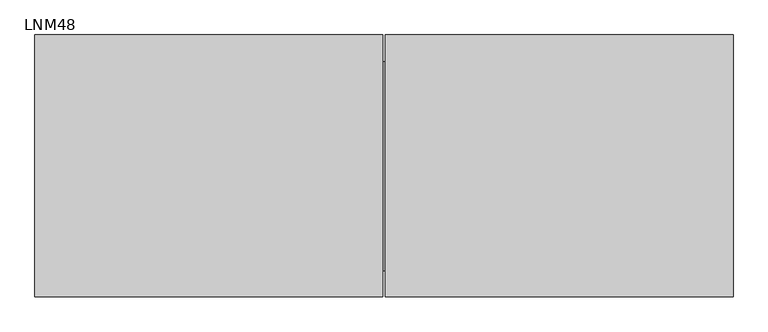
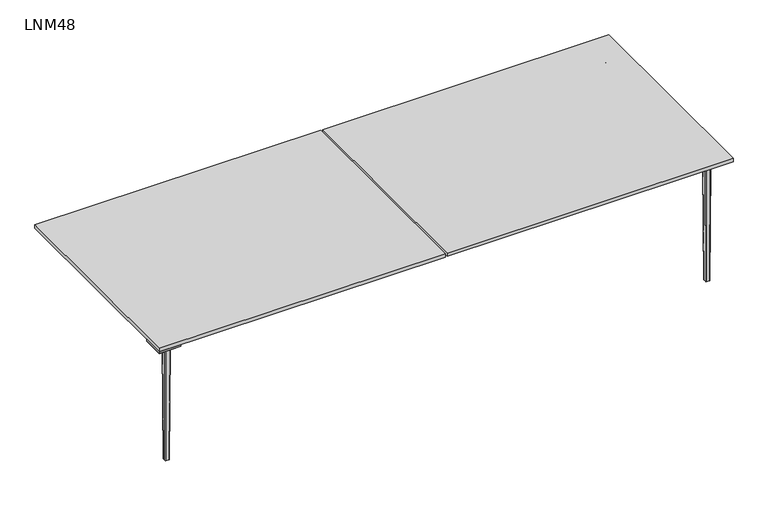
"""IFC4 building model written with IfcOpenShell, lengths in millimetres: furniture geometry, Operative Twin Desks : LNM48."""

from ifc_helpers import new_model, si_unit, point, frame, origin, place, context, project, spatial, polyline, circle_curve, ellipse_curve, trimmed, outline, extrude, faceted_brep, source, transform, mapped, element, save
from ifc_brep_helpers import plane_surface, cylinder_surface, revolved_surface, extruded_surface, advanced_brep


def lnm48_bbb13878(model_context):
    return source(origin(), model_context, "Body", "SolidModel", [
        advanced_brep(
        [(1519.0, -522.0, 665.0), (1522.0, -519.0, 665.0), (1522.0, -495.0, 665.0), (1519.0, -492.0, 665.0), (1495.0, -492.0, 665.0), (1492.0, -495.0, 665.0), (1492.0, -519.0, 665.0), (1495.0, -522.0, 665.0), (1516.0, -519.0, 0.0), (1498.0, -519.0, 0.0), (1495.0, -516.0, 0.0), (1495.0, -498.0, 0.0), (1498.0, -495.0, 0.0), (1516.0, -495.0, 0.0), (1519.0, -498.0, 0.0), (1519.0, -516.0, 0.0)],
        [
            (0, 1, circle_curve(frame((1519.0, -519.0, 665.0), z_axis=(0.0, 0.0, 1.0), x_axis=(0.0, 1.0, 0.0)), 3.0)),
            (1, 2),
            (2, 3, circle_curve(frame((1519.0, -495.0, 665.0), z_axis=(0.0, 0.0, 1.0), x_axis=(0.0, 1.0, 0.0)), 3.0)),
            (3, 4),
            (4, 5, circle_curve(frame((1495.0, -495.0, 665.0), z_axis=(0.0, 0.0, 1.0), x_axis=(0.0, 1.0, 0.0)), 3.0)),
            (5, 6),
            (6, 7, circle_curve(frame((1495.0, -519.0, 665.0), z_axis=(0.0, 0.0, 1.0), x_axis=(0.0, 1.0, 0.0)), 3.0)),
            (7, 0),
            (8, 9),
            (9, 10, circle_curve(frame((1498.0, -516.0, 0.0), z_axis=(0.0, 0.0, -1.0), x_axis=(0.0, 1.0, 0.0)), 3.0)),
            (10, 11),
            (11, 12, circle_curve(frame((1498.0, -498.0, 0.0), z_axis=(0.0, 0.0, -1.0), x_axis=(0.0, 1.0, 0.0)), 3.0)),
            (12, 13),
            (13, 14, circle_curve(frame((1516.0, -498.0, 0.0), z_axis=(0.0, 0.0, -1.0), x_axis=(0.0, 1.0, 0.0)), 3.0)),
            (14, 15),
            (15, 8, circle_curve(frame((1516.0, -516.0, 0.0), z_axis=(0.0, 0.0, -1.0), x_axis=(0.0, 1.0, 0.0)), 3.0)),
            (15, 1),
            (0, 8),
            (14, 2),
            (13, 3),
            (12, 4),
            (11, 5),
            (10, 6),
            (9, 7),
        ],
        [
            plane_surface(frame((1507.0, -507.0, 665.0), z_axis=(0.0, 0.0, 1.0), x_axis=(0.0, -1.0, 0.0))),
            plane_surface(frame((1507.0, -507.0, 0.0), z_axis=(0.0, 0.0, -1.0), x_axis=(0.0, -1.0, 0.0))),
            extruded_surface(trimmed(circle_curve(frame((1516.0, -516.0, 0.0), z_axis=(0.0, 0.0, 1.0), x_axis=(0.0, 1.0, 0.0)), 3.0), [point((1516.0, -519.0, 0.0))], [point((1519.0, -516.0, 0.0))], True, "CARTESIAN"), (3.0, -3.0, 665.0), 665.0135336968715),
            plane_surface(frame((1519.0, -507.0, 0.0), z_axis=(0.9999898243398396, 0.0, -0.004511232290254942), x_axis=(0.0, 1.0, 0.0))),
            extruded_surface(trimmed(circle_curve(frame((1516.0, -498.0, 0.0), z_axis=(0.0, 0.0, 1.0), x_axis=(0.0, 1.0, 0.0)), 3.0), [point((1519.0, -498.0, 0.0))], [point((1516.0, -495.0, 0.0))], True, "CARTESIAN"), (3.0, 3.0, 665.0), 665.0135336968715),
            plane_surface(frame((1507.0, -495.0, 0.0), z_axis=(0.0, 0.9999898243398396, -0.004511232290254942), x_axis=(-1.0, 0.0, 0.0))),
            extruded_surface(trimmed(circle_curve(frame((1498.0, -498.0, 0.0), z_axis=(0.0, 0.0, 1.0), x_axis=(0.0, 1.0, 0.0)), 3.0), [point((1498.0, -495.0, 0.0))], [point((1495.0, -498.0, 0.0))], True, "CARTESIAN"), (-3.0, 3.0, 665.0), 665.0135336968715),
            plane_surface(frame((1495.0, -507.0, 0.0), z_axis=(-0.9999898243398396, 0.0, -0.004511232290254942), x_axis=(0.0, -1.0, 0.0))),
            extruded_surface(trimmed(circle_curve(frame((1498.0, -516.0, 0.0), z_axis=(0.0, 0.0, 1.0), x_axis=(0.0, 1.0, 0.0)), 3.0), [point((1495.0, -516.0, 0.0))], [point((1498.0, -519.0, 0.0))], True, "CARTESIAN"), (-3.0, -3.0, 665.0), 665.0135336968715),
            plane_surface(frame((1507.0, -519.0, 0.0), z_axis=(0.0, -0.9999898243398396, -0.004511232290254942), x_axis=(1.0, 0.0, 0.0))),
        ],
        [
            (0, [[1, 2, 3, 4, 5, 6, 7, 8]]),
            (1, [[9, 10, 11, 12, 13, 14, 15, 16]]),
            (2, [[-16, 17, -1, 18]]),
            (3, [[-15, 19, -2, -17]]),
            (4, [[-14, 20, -3, -19]]),
            (5, [[-13, 21, -4, -20]]),
            (6, [[-12, 22, -5, -21]]),
            (7, [[-11, 23, -6, -22]]),
            (8, [[-10, 24, -7, -23]]),
            (9, [[-9, -18, -8, -24]]),
        ],
    ),
        faceted_brep([(1480.0, 480.0, 710.0), (1600.0, 480.0, 710.0), (1600.0, 600.0, 710.0), (1480.0, 600.0, 710.0), (1480.0, 480.0, 675.0), (1480.0, 527.0, 675.0), (1527.0, 527.0, 675.0), (1527.0, 480.0, 675.0)], [[[0, 1, 2, 3]], [[4, 5, 6, 7]], [[1, 0, 4, 7]], [[0, 3, 5, 4]], [[6, 2, 1, 7]], [[2, 6, 5, 3]]]),
        advanced_brep(
        [(1495.0, 487.0, 675.0), (1519.0, 487.0, 675.0), (1527.0, 495.0, 675.0), (1527.0, 519.0, 675.0), (1519.0, 527.0, 675.0), (1495.0, 527.0, 675.0), (1487.0, 519.0, 675.0), (1487.0, 495.0, 675.0), (1492.0, 519.0, 665.0), (1495.0, 522.0, 665.0), (1519.0, 522.0, 665.0), (1522.0, 519.0, 665.0), (1522.0, 495.0, 665.0), (1519.0, 492.0, 665.0), (1495.0, 492.0, 665.0), (1492.0, 495.0, 665.0), (1495.0, 487.0, 672.0), (1519.0, 487.0, 672.0), (1527.0, 495.0, 672.0), (1527.0, 519.0, 672.0), (1519.0, 527.0, 672.0), (1495.0, 527.0, 672.0), (1487.0, 519.0, 672.0), (1487.0, 495.0, 672.0)],
        [
            (0, 1),
            (1, 2, circle_curve(frame((1519.0, 495.0, 675.0), z_axis=(0.0, 0.0, 1.0), x_axis=(-1.0000000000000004, 0.0, 0.0)), 8.0)),
            (2, 3),
            (3, 4, circle_curve(frame((1519.0, 519.0, 675.0), z_axis=(0.0, 0.0, 1.0), x_axis=(-1.0000000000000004, 0.0, 0.0)), 8.0)),
            (4, 5),
            (5, 6, circle_curve(frame((1495.0, 519.0, 675.0), z_axis=(0.0, 0.0, 1.0), x_axis=(-1.0000000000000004, 0.0, 0.0)), 8.0)),
            (6, 7),
            (7, 0, circle_curve(frame((1495.0, 495.0, 675.0), z_axis=(0.0, 0.0, 1.0), x_axis=(-1.0000000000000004, 0.0, 0.0)), 8.0)),
            (8, 9, circle_curve(frame((1495.0, 519.0, 665.0), z_axis=(0.0, 0.0, -1.0), x_axis=(-1.0000000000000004, 0.0, 0.0)), 3.0)),
            (9, 10),
            (10, 11, circle_curve(frame((1519.0, 519.0, 665.0), z_axis=(0.0, 0.0, -1.0), x_axis=(0.0, 1.0000000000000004, 0.0)), 3.0)),
            (11, 12),
            (12, 13, circle_curve(frame((1519.0, 495.0, 665.0), z_axis=(0.0, 0.0, -1.0), x_axis=(1.0000000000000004, 0.0, 0.0)), 3.0)),
            (13, 14),
            (14, 15, circle_curve(frame((1495.0, 495.0, 665.0), z_axis=(0.0, 0.0, -1.0), x_axis=(0.0, -1.0000000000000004, 0.0)), 3.0)),
            (15, 8),
            (0, 16),
            (16, 17),
            (17, 1),
            (17, 18, circle_curve(frame((1519.0, 495.0, 672.0), z_axis=(0.0, 0.0, 1.0), x_axis=(-1.0000000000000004, 0.0, 0.0)), 8.0)),
            (18, 2),
            (18, 19),
            (19, 3),
            (19, 20, circle_curve(frame((1519.0, 519.0, 672.0), z_axis=(0.0, 0.0, 1.0), x_axis=(-1.0000000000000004, 0.0, 0.0)), 8.0)),
            (20, 4),
            (20, 21),
            (21, 5),
            (21, 22, circle_curve(frame((1495.0, 519.0, 672.0), z_axis=(0.0, 0.0, 1.0), x_axis=(-1.0000000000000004, 0.0, 0.0)), 8.0)),
            (22, 6),
            (22, 23),
            (23, 7),
            (23, 16, circle_curve(frame((1495.0, 495.0, 672.0), z_axis=(0.0, 0.0, 1.0), x_axis=(-1.0000000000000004, 0.0, 0.0)), 8.0)),
            (21, 9, circle_curve(frame((1495.0, 530.9600528, 663.8856766), z_axis=(1.0000000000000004, 0.0, 0.0), x_axis=(0.0, 1.0000000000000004, 0.0)), 9.0290787)),
            (8, 22, circle_curve(frame((1483.0399472, 519.0, 663.8856766), z_axis=(0.0, -1.0000000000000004, 0.0), x_axis=(-1.0000000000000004, 0.0, 0.0)), 9.0290787)),
            (20, 10, circle_curve(frame((1519.0, 530.9600528, 663.8856766), z_axis=(1.0, 0.0, 0.0), x_axis=(0.0, 1.0000000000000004, 0.0)), 9.0290787)),
            (19, 11, circle_curve(frame((1530.9600528, 519.0, 663.8856766), z_axis=(0.0, -1.0000000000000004, 0.0), x_axis=(1.0000000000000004, 0.0, 0.0)), 9.0290787)),
            (18, 12, circle_curve(frame((1530.9600528, 495.0, 663.8856766), z_axis=(0.0, -1.0, 0.0), x_axis=(1.0000000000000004, 0.0, 0.0)), 9.0290787)),
            (17, 13, circle_curve(frame((1519.0, 483.0399472, 663.8856766), z_axis=(-1.0000000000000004, 0.0, 0.0), x_axis=(0.0, -1.0000000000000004, 0.0)), 9.0290787)),
            (16, 14, circle_curve(frame((1495.0, 483.0399472, 663.8856766), z_axis=(-1.0, 0.0, 0.0), x_axis=(0.0, -1.0000000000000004, 0.0)), 9.0290787)),
            (23, 15, circle_curve(frame((1483.0399472, 495.0, 663.8856766), z_axis=(0.0, 1.0000000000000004, 0.0), x_axis=(-1.0000000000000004, 0.0, 0.0)), 9.0290787)),
        ],
        [
            plane_surface(frame((2180.663284, 487.0, 675.0), z_axis=(0.0, 0.0, 1.0), x_axis=(1.0, 0.0, 0.0))),
            plane_surface(frame((2180.663284, 487.0, 665.0), z_axis=(0.0, 0.0, -1.0), x_axis=(-1.0, 0.0, 0.0))),
            plane_surface(frame((1495.0, 487.0, 675.0), z_axis=(0.0, -1.0, 0.0), x_axis=(0.0, 0.0, -1.0))),
            cylinder_surface(frame((1519.0, 495.0, 665.0), z_axis=(0.0, 0.0, 1.0), x_axis=(-1.0000000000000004, 0.0, 0.0)), 8.0),
            plane_surface(frame((1527.0, 495.0, 675.0), z_axis=(1.0, 0.0, 0.0), x_axis=(0.0, 0.0, -1.0))),
            cylinder_surface(frame((1519.0, 519.0, 665.0), z_axis=(0.0, 0.0, 1.0), x_axis=(-1.0000000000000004, 0.0, 0.0)), 8.0),
            plane_surface(frame((1519.0, 527.0, 675.0), z_axis=(0.0, 1.0, 0.0), x_axis=(0.0, 0.0, -1.0))),
            cylinder_surface(frame((1495.0, 519.0, 665.0), z_axis=(0.0, 0.0, 1.0), x_axis=(-1.0000000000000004, 0.0, 0.0)), 8.0),
            plane_surface(frame((1487.0, 519.0, 675.0), z_axis=(-1.0, 0.0, 0.0), x_axis=(0.0, 0.0, -1.0))),
            cylinder_surface(frame((1495.0, 495.0, 665.0), z_axis=(0.0, 0.0, 1.0), x_axis=(-1.0000000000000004, 0.0, 0.0)), 8.0),
            revolved_surface(trimmed(ellipse_curve(frame((1483.0399472, 519.0, 663.8856766), z_axis=(0.0, 1.0000000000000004, 0.0), x_axis=(-1.0000000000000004, 0.0, 0.0)), 9.0290787, 9.0290787), [point((1487.0, 519.0, 672.0))], [point((1492.0, 519.0, 665.0))], True, "CARTESIAN"), (1495.0, 519.0, 0.0), (0.0, 0.0, -1.0)),
            revolved_surface(polyline([(1495.0, 539.9891315, 663.8856766), (1519.0, 539.9891315, 663.8856766)]), (1495.0, 530.9600528, 663.8856766), (-1.0000000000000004, 0.0, 0.0)),
            revolved_surface(trimmed(ellipse_curve(frame((1519.0, 530.9600528, 663.8856766), z_axis=(1.0000000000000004, 0.0, 0.0), x_axis=(0.0, 1.0000000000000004, 0.0)), 9.0290787, 9.0290787), [point((1519.0, 527.0, 672.0))], [point((1519.0, 522.0, 665.0))], True, "CARTESIAN"), (1519.0, 519.0, 0.0), (0.0, 0.0, -1.0)),
            revolved_surface(polyline([(1539.9891315, 519.0, 663.8856766), (1539.9891315, 495.0, 663.8856766)]), (1530.9600528, 519.0, 663.8856766), (0.0, 1.0000000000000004, 0.0)),
            revolved_surface(trimmed(ellipse_curve(frame((1530.9600528, 495.0, 663.8856766), z_axis=(0.0, -1.0000000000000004, 0.0), x_axis=(1.0000000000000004, 0.0, 0.0)), 9.0290787, 9.0290787), [point((1527.0, 495.0, 672.0))], [point((1522.0, 495.0, 665.0))], True, "CARTESIAN"), (1519.0, 495.0, 0.0), (0.0, 0.0, -1.0)),
            revolved_surface(polyline([(1519.0, 474.01086849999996, 663.8856766), (1495.0, 474.01086849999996, 663.8856766)]), (1519.0, 483.0399472, 663.8856766), (1.0000000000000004, 0.0, 0.0)),
            revolved_surface(trimmed(ellipse_curve(frame((1495.0, 483.0399472, 663.8856766), z_axis=(-1.0000000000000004, 0.0, 0.0), x_axis=(0.0, -1.0000000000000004, 0.0)), 9.0290787, 9.0290787), [point((1495.0, 487.0, 672.0))], [point((1495.0, 492.0, 665.0))], True, "CARTESIAN"), (1495.0, 495.0, 0.0), (0.0, 0.0, -1.0)),
            revolved_surface(polyline([(1474.0108685, 495.0, 663.8856766), (1474.0108685, 519.0, 663.8856766)]), (1483.0399472, 495.0, 663.8856766), (0.0, -1.0000000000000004, 0.0)),
        ],
        [
            (0, [[1, 2, 3, 4, 5, 6, 7, 8]]),
            (1, [[9, 10, 11, 12, 13, 14, 15, 16]]),
            (2, [[-1, 17, 18, 19]]),
            (3, [[-2, -19, 20, 21]]),
            (4, [[-3, -21, 22, 23]]),
            (5, [[-4, -23, 24, 25]]),
            (6, [[-5, -25, 26, 27]]),
            (7, [[-6, -27, 28, 29]]),
            (8, [[-7, -29, 30, 31]]),
            (9, [[-8, -31, 32, -17]]),
            (10, [[33, -9, 34, -28]]),
            (11, [[-33, -26, 35, -10]]),
            (12, [[-35, -24, 36, -11]]),
            (13, [[-36, -22, 37, -12]]),
            (14, [[-37, -20, 38, -13]]),
            (15, [[-38, -18, 39, -14]]),
            (16, [[-39, -32, 40, -15]]),
            (17, [[-34, -16, -40, -30]]),
        ],
    ),
        advanced_brep(
        [(1522.0, 519.0, 665.0), (1519.0, 522.0, 665.0), (1495.0, 522.0, 665.0), (1492.0, 519.0, 665.0), (1492.0, 495.0, 665.0), (1495.0, 492.0, 665.0), (1519.0, 492.0, 665.0), (1522.0, 495.0, 665.0), (1519.0, 516.0, 0.0), (1519.0, 498.0, 0.0), (1516.0, 495.0, 0.0), (1498.0, 495.0, 0.0), (1495.0, 498.0, 0.0), (1495.0, 516.0, 0.0), (1498.0, 519.0, 0.0), (1516.0, 519.0, 0.0)],
        [
            (0, 1, circle_curve(frame((1519.0, 519.0, 665.0), z_axis=(0.0, 0.0, 1.0), x_axis=(-1.0, 0.0, 0.0)), 3.0)),
            (1, 2),
            (2, 3, circle_curve(frame((1495.0, 519.0, 665.0), z_axis=(0.0, 0.0, 1.0), x_axis=(-1.0, 0.0, 0.0)), 3.0)),
            (3, 4),
            (4, 5, circle_curve(frame((1495.0, 495.0, 665.0), z_axis=(0.0, 0.0, 1.0), x_axis=(-1.0, 0.0, 0.0)), 3.0)),
            (5, 6),
            (6, 7, circle_curve(frame((1519.0, 495.0, 665.0), z_axis=(0.0, 0.0, 1.0), x_axis=(-1.0, 0.0, 0.0)), 3.0)),
            (7, 0),
            (8, 9),
            (9, 10, circle_curve(frame((1516.0, 498.0, 0.0), z_axis=(0.0, 0.0, -1.0), x_axis=(-1.0, 0.0, 0.0)), 3.0)),
            (10, 11),
            (11, 12, circle_curve(frame((1498.0, 498.0, 0.0), z_axis=(0.0, 0.0, -1.0), x_axis=(-1.0, 0.0, 0.0)), 3.0)),
            (12, 13),
            (13, 14, circle_curve(frame((1498.0, 516.0, 0.0), z_axis=(0.0, 0.0, -1.0), x_axis=(-1.0, 0.0, 0.0)), 3.0)),
            (14, 15),
            (15, 8, circle_curve(frame((1516.0, 516.0, 0.0), z_axis=(0.0, 0.0, -1.0), x_axis=(-1.0, 0.0, 0.0)), 3.0)),
            (15, 1),
            (0, 8),
            (14, 2),
            (13, 3),
            (12, 4),
            (11, 5),
            (10, 6),
            (9, 7),
        ],
        [
            plane_surface(frame((1507.0, 507.0, 665.0), z_axis=(0.0, 0.0, 1.0), x_axis=(1.0, 0.0, 0.0))),
            plane_surface(frame((1507.0, 507.0, 0.0), z_axis=(0.0, 0.0, -1.0), x_axis=(1.0, 0.0, 0.0))),
            extruded_surface(trimmed(circle_curve(frame((1516.0, 516.0, 0.0), z_axis=(0.0, 0.0, 1.0), x_axis=(-1.0, 0.0, 0.0)), 3.0), [point((1519.0, 516.0, 0.0))], [point((1516.0, 519.0, 0.0))], True, "CARTESIAN"), (3.0, 3.0, 665.0), 665.0135336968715),
            plane_surface(frame((1507.0, 519.0, 0.0), z_axis=(0.0, 0.9999898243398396, -0.004511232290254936), x_axis=(-1.0, 0.0, 0.0))),
            extruded_surface(trimmed(circle_curve(frame((1498.0, 516.0, 0.0), z_axis=(0.0, 0.0, 1.0), x_axis=(-1.0, 0.0, 0.0)), 3.0), [point((1498.0, 519.0, 0.0))], [point((1495.0, 516.0, 0.0))], True, "CARTESIAN"), (-3.0, 3.0, 665.0), 665.0135336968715),
            plane_surface(frame((1495.0, 507.0, 0.0), z_axis=(-0.9999898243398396, 0.0, -0.004511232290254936), x_axis=(0.0, -1.0, 0.0))),
            extruded_surface(trimmed(circle_curve(frame((1498.0, 498.0, 0.0), z_axis=(0.0, 0.0, 1.0), x_axis=(-1.0, 0.0, 0.0)), 3.0), [point((1495.0, 498.0, 0.0))], [point((1498.0, 495.0, 0.0))], True, "CARTESIAN"), (-3.0, -3.0, 665.0), 665.0135336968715),
            plane_surface(frame((1507.0, 495.0, 0.0), z_axis=(0.0, -0.9999898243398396, -0.004511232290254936), x_axis=(1.0, 0.0, 0.0))),
            extruded_surface(trimmed(circle_curve(frame((1516.0, 498.0, 0.0), z_axis=(0.0, 0.0, 1.0), x_axis=(-1.0, 0.0, 0.0)), 3.0), [point((1516.0, 495.0, 0.0))], [point((1519.0, 498.0, 0.0))], True, "CARTESIAN"), (3.0, -3.0, 665.0), 665.0135336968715),
            plane_surface(frame((1519.0, 507.0, 0.0), z_axis=(0.9999898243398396, 0.0, -0.004511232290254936), x_axis=(0.0, 1.0, 0.0))),
        ],
        [
            (0, [[1, 2, 3, 4, 5, 6, 7, 8]]),
            (1, [[9, 10, 11, 12, 13, 14, 15, 16]]),
            (2, [[-16, 17, -1, 18]]),
            (3, [[-15, 19, -2, -17]]),
            (4, [[-14, 20, -3, -19]]),
            (5, [[-13, 21, -4, -20]]),
            (6, [[-12, 22, -5, -21]]),
            (7, [[-11, 23, -6, -22]]),
            (8, [[-10, 24, -7, -23]]),
            (9, [[-9, -18, -8, -24]]),
        ],
    ),
        faceted_brep([(-1480.0, -480.0, 710.0), (-1600.0, -480.0, 710.0), (-1600.0, -600.0, 710.0), (-1480.0, -600.0, 710.0), (-1480.0, -480.0, 675.0), (-1480.0, -527.0, 675.0), (-1527.0, -527.0, 675.0), (-1527.0, -480.0, 675.0)], [[[0, 1, 2, 3]], [[4, 5, 6, 7]], [[1, 0, 4, 7]], [[0, 3, 5, 4]], [[6, 2, 1, 7]], [[2, 6, 5, 3]]]),
        advanced_brep(
        [(-1495.0, -487.0, 675.0), (-1519.0, -487.0, 675.0), (-1527.0, -495.0, 675.0), (-1527.0, -519.0, 675.0), (-1519.0, -527.0, 675.0), (-1495.0, -527.0, 675.0), (-1487.0, -519.0, 675.0), (-1487.0, -495.0, 675.0), (-1492.0, -519.0, 665.0), (-1495.0, -522.0, 665.0), (-1519.0, -522.0, 665.0), (-1522.0, -519.0, 665.0), (-1522.0, -495.0, 665.0), (-1519.0, -492.0, 665.0), (-1495.0, -492.0, 665.0), (-1492.0, -495.0, 665.0), (-1495.0, -487.0, 672.0), (-1519.0, -487.0, 672.0), (-1527.0, -495.0, 672.0), (-1527.0, -519.0, 672.0), (-1519.0, -527.0, 672.0), (-1495.0, -527.0, 672.0), (-1487.0, -519.0, 672.0), (-1487.0, -495.0, 672.0)],
        [
            (0, 1),
            (1, 2, circle_curve(frame((-1519.0, -495.0, 675.0), z_axis=(0.0, 0.0, 1.0), x_axis=(1.0, 0.0, 0.0)), 8.0)),
            (2, 3),
            (3, 4, circle_curve(frame((-1519.0, -519.0, 675.0), z_axis=(0.0, 0.0, 1.0), x_axis=(1.0, 0.0, 0.0)), 8.0)),
            (4, 5),
            (5, 6, circle_curve(frame((-1495.0, -519.0, 675.0), z_axis=(0.0, 0.0, 1.0), x_axis=(1.0, 0.0, 0.0)), 8.0)),
            (6, 7),
            (7, 0, circle_curve(frame((-1495.0, -495.0, 675.0), z_axis=(0.0, 0.0, 1.0), x_axis=(1.0, 0.0, 0.0)), 8.0)),
            (8, 9, circle_curve(frame((-1495.0, -519.0, 665.0), z_axis=(0.0, 0.0, -1.0), x_axis=(1.0, 0.0, 0.0)), 3.0)),
            (9, 10),
            (10, 11, circle_curve(frame((-1519.0, -519.0, 665.0), z_axis=(0.0, 0.0, -1.0), x_axis=(0.0, -1.0, 0.0)), 3.0)),
            (11, 12),
            (12, 13, circle_curve(frame((-1519.0, -495.0, 665.0), z_axis=(0.0, 0.0, -1.0), x_axis=(-1.0, 0.0, 0.0)), 3.0)),
            (13, 14),
            (14, 15, circle_curve(frame((-1495.0, -495.0, 665.0), z_axis=(0.0, 0.0, -1.0), x_axis=(0.0, 1.0, 0.0)), 3.0)),
            (15, 8),
            (0, 16),
            (16, 17),
            (17, 1),
            (17, 18, circle_curve(frame((-1519.0, -495.0, 672.0), z_axis=(0.0, 0.0, 1.0), x_axis=(1.0, 0.0, 0.0)), 8.0)),
            (18, 2),
            (18, 19),
            (19, 3),
            (19, 20, circle_curve(frame((-1519.0, -519.0, 672.0), z_axis=(0.0, 0.0, 1.0), x_axis=(1.0, 0.0, 0.0)), 8.0)),
            (20, 4),
            (20, 21),
            (21, 5),
            (21, 22, circle_curve(frame((-1495.0, -519.0, 672.0), z_axis=(0.0, 0.0, 1.0), x_axis=(1.0, 0.0, 0.0)), 8.0)),
            (22, 6),
            (22, 23),
            (23, 7),
            (23, 16, circle_curve(frame((-1495.0, -495.0, 672.0), z_axis=(0.0, 0.0, 1.0), x_axis=(1.0, 0.0, 0.0)), 8.0)),
            (21, 9, circle_curve(frame((-1495.0, -530.9600528, 663.8856766), z_axis=(-1.0, 0.0, 0.0), x_axis=(0.0, -1.0, 0.0)), 9.0290787)),
            (8, 22, circle_curve(frame((-1483.0399472, -519.0, 663.8856766), z_axis=(0.0, 1.0, 0.0), x_axis=(1.0, 0.0, 0.0)), 9.0290787)),
            (20, 10, circle_curve(frame((-1519.0, -530.9600528, 663.8856766), z_axis=(-1.0, 0.0, 0.0), x_axis=(0.0, -1.0, 0.0)), 9.0290787)),
            (19, 11, circle_curve(frame((-1530.9600528, -519.0, 663.8856766), z_axis=(0.0, 1.0, 0.0), x_axis=(-1.0, 0.0, 0.0)), 9.0290787)),
            (18, 12, circle_curve(frame((-1530.9600528, -495.0, 663.8856766), z_axis=(0.0, 1.0, 0.0), x_axis=(-1.0, 0.0, 0.0)), 9.0290787)),
            (17, 13, circle_curve(frame((-1519.0, -483.0399472, 663.8856766), z_axis=(1.0, 0.0, 0.0), x_axis=(0.0, 1.0, 0.0)), 9.0290787)),
            (16, 14, circle_curve(frame((-1495.0, -483.0399472, 663.8856766), z_axis=(1.0, 0.0, 0.0), x_axis=(0.0, 1.0, 0.0)), 9.0290787)),
            (23, 15, circle_curve(frame((-1483.0399472, -495.0, 663.8856766), z_axis=(0.0, -1.0, 0.0), x_axis=(1.0, 0.0, 0.0)), 9.0290787)),
        ],
        [
            plane_surface(frame((-2180.663284, -487.0, 675.0), z_axis=(0.0, 0.0, 1.0), x_axis=(-1.0, 0.0, 0.0))),
            plane_surface(frame((-2180.663284, -487.0, 665.0), z_axis=(0.0, 0.0, -1.0), x_axis=(1.0, 0.0, 0.0))),
            plane_surface(frame((-1495.0, -487.0, 675.0), z_axis=(0.0, 1.0, 0.0), x_axis=(0.0, 0.0, -1.0))),
            cylinder_surface(frame((-1519.0, -495.0, 665.0), z_axis=(0.0, 0.0, 1.0), x_axis=(1.0, 0.0, 0.0)), 8.0),
            plane_surface(frame((-1527.0, -495.0, 675.0), z_axis=(-1.0, 0.0, 0.0), x_axis=(0.0, 0.0, -1.0))),
            cylinder_surface(frame((-1519.0, -519.0, 665.0), z_axis=(0.0, 0.0, 1.0), x_axis=(1.0, 0.0, 0.0)), 8.0),
            plane_surface(frame((-1519.0, -527.0, 675.0), z_axis=(0.0, -1.0, 0.0), x_axis=(0.0, 0.0, -1.0))),
            cylinder_surface(frame((-1495.0, -519.0, 665.0), z_axis=(0.0, 0.0, 1.0), x_axis=(1.0, 0.0, 0.0)), 8.0),
            plane_surface(frame((-1487.0, -519.0, 675.0), z_axis=(1.0, 0.0, 0.0), x_axis=(0.0, 0.0, -1.0))),
            cylinder_surface(frame((-1495.0, -495.0, 665.0), z_axis=(0.0, 0.0, 1.0), x_axis=(1.0, 0.0, 0.0)), 8.0),
            revolved_surface(trimmed(ellipse_curve(frame((-1483.0399472, -519.0, 663.8856766), z_axis=(0.0, -1.0, 0.0), x_axis=(1.0, 0.0, 0.0)), 9.0290787, 9.0290787), [point((-1487.0, -519.0, 672.0))], [point((-1492.0, -519.0, 665.0))], True, "CARTESIAN"), (-1495.0, -519.0, 0.0), (0.0, 0.0, -1.0)),
            revolved_surface(polyline([(-1495.0, -539.9891315, 663.8856766), (-1519.0, -539.9891315, 663.8856766)]), (-1495.0, -530.9600528, 663.8856766), (1.0, 0.0, 0.0)),
            revolved_surface(trimmed(ellipse_curve(frame((-1519.0, -530.9600528, 663.8856766), z_axis=(-1.0, 0.0, 0.0), x_axis=(0.0, -1.0, 0.0)), 9.0290787, 9.0290787), [point((-1519.0, -527.0, 672.0))], [point((-1519.0, -522.0, 665.0))], True, "CARTESIAN"), (-1519.0, -519.0, 0.0), (0.0, 0.0, -1.0)),
            revolved_surface(polyline([(-1539.9891315, -519.0, 663.8856766), (-1539.9891315, -495.0, 663.8856766)]), (-1530.9600528, -519.0, 663.8856766), (0.0, -1.0, 0.0)),
            revolved_surface(trimmed(ellipse_curve(frame((-1530.9600528, -495.0, 663.8856766), z_axis=(0.0, 1.0, 0.0), x_axis=(-1.0, 0.0, 0.0)), 9.0290787, 9.0290787), [point((-1527.0, -495.0, 672.0))], [point((-1522.0, -495.0, 665.0))], True, "CARTESIAN"), (-1519.0, -495.0, 0.0), (0.0, 0.0, -1.0)),
            revolved_surface(polyline([(-1519.0, -474.01086849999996, 663.8856766), (-1495.0, -474.01086849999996, 663.8856766)]), (-1519.0, -483.0399472, 663.8856766), (-1.0, 0.0, 0.0)),
            revolved_surface(trimmed(ellipse_curve(frame((-1495.0, -483.0399472, 663.8856766), z_axis=(1.0, 0.0, 0.0), x_axis=(0.0, 1.0, 0.0)), 9.0290787, 9.0290787), [point((-1495.0, -487.0, 672.0))], [point((-1495.0, -492.0, 665.0))], True, "CARTESIAN"), (-1495.0, -495.0, 0.0), (0.0, 0.0, -1.0)),
            revolved_surface(polyline([(-1474.0108685, -495.0, 663.8856766), (-1474.0108685, -519.0, 663.8856766)]), (-1483.0399472, -495.0, 663.8856766), (0.0, 1.0, 0.0)),
        ],
        [
            (0, [[1, 2, 3, 4, 5, 6, 7, 8]]),
            (1, [[9, 10, 11, 12, 13, 14, 15, 16]]),
            (2, [[-1, 17, 18, 19]]),
            (3, [[-2, -19, 20, 21]]),
            (4, [[-3, -21, 22, 23]]),
            (5, [[-4, -23, 24, 25]]),
            (6, [[-5, -25, 26, 27]]),
            (7, [[-6, -27, 28, 29]]),
            (8, [[-7, -29, 30, 31]]),
            (9, [[-8, -31, 32, -17]]),
            (10, [[33, -9, 34, -28]]),
            (11, [[-33, -26, 35, -10]]),
            (12, [[-35, -24, 36, -11]]),
            (13, [[-36, -22, 37, -12]]),
            (14, [[-37, -20, 38, -13]]),
            (15, [[-38, -18, 39, -14]]),
            (16, [[-39, -32, 40, -15]]),
            (17, [[-34, -16, -40, -30]]),
        ],
    ),
        advanced_brep(
        [(-1522.0, -519.0, 665.0), (-1519.0, -522.0, 665.0), (-1495.0, -522.0, 665.0), (-1492.0, -519.0, 665.0), (-1492.0, -495.0, 665.0), (-1495.0, -492.0, 665.0), (-1519.0, -492.0, 665.0), (-1522.0, -495.0, 665.0), (-1519.0, -516.0, 0.0), (-1519.0, -498.0, 0.0), (-1516.0, -495.0, 0.0), (-1498.0, -495.0, 0.0), (-1495.0, -498.0, 0.0), (-1495.0, -516.0, 0.0), (-1498.0, -519.0, 0.0), (-1516.0, -519.0, 0.0)],
        [
            (0, 1, circle_curve(frame((-1519.0, -519.0, 665.0), z_axis=(0.0, 0.0, 1.0), x_axis=(1.0, 0.0, 0.0)), 3.0)),
            (1, 2),
            (2, 3, circle_curve(frame((-1495.0, -519.0, 665.0), z_axis=(0.0, 0.0, 1.0), x_axis=(1.0, 0.0, 0.0)), 3.0)),
            (3, 4),
            (4, 5, circle_curve(frame((-1495.0, -495.0, 665.0), z_axis=(0.0, 0.0, 1.0), x_axis=(1.0, 0.0, 0.0)), 3.0)),
            (5, 6),
            (6, 7, circle_curve(frame((-1519.0, -495.0, 665.0), z_axis=(0.0, 0.0, 1.0), x_axis=(1.0, 0.0, 0.0)), 3.0)),
            (7, 0),
            (8, 9),
            (9, 10, circle_curve(frame((-1516.0, -498.0, 0.0), z_axis=(0.0, 0.0, -1.0), x_axis=(1.0, 0.0, 0.0)), 3.0)),
            (10, 11),
            (11, 12, circle_curve(frame((-1498.0, -498.0, 0.0), z_axis=(0.0, 0.0, -1.0), x_axis=(1.0, 0.0, 0.0)), 3.0)),
            (12, 13),
            (13, 14, circle_curve(frame((-1498.0, -516.0, 0.0), z_axis=(0.0, 0.0, -1.0), x_axis=(1.0, 0.0, 0.0)), 3.0)),
            (14, 15),
            (15, 8, circle_curve(frame((-1516.0, -516.0, 0.0), z_axis=(0.0, 0.0, -1.0), x_axis=(1.0, 0.0, 0.0)), 3.0)),
            (15, 1),
            (0, 8),
            (14, 2),
            (13, 3),
            (12, 4),
            (11, 5),
            (10, 6),
            (9, 7),
        ],
        [
            plane_surface(frame((-1507.0, -507.0, 665.0), z_axis=(0.0, 0.0, 1.0), x_axis=(-1.0, 0.0, 0.0))),
            plane_surface(frame((-1507.0, -507.0, 0.0), z_axis=(0.0, 0.0, -1.0), x_axis=(-1.0, 0.0, 0.0))),
            extruded_surface(trimmed(circle_curve(frame((-1516.0, -516.0, 0.0), z_axis=(0.0, 0.0, 1.0), x_axis=(1.0, 0.0, 0.0)), 3.0), [point((-1519.0, -516.0, 0.0))], [point((-1516.0, -519.0, 0.0))], True, "CARTESIAN"), (-3.0, -3.0, 665.0), 665.0135336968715),
            plane_surface(frame((-1507.0, -519.0, 0.0), z_axis=(0.0, -0.9999898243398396, -0.004511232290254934), x_axis=(1.0, 0.0, 0.0))),
            extruded_surface(trimmed(circle_curve(frame((-1498.0, -516.0, 0.0), z_axis=(0.0, 0.0, 1.0), x_axis=(1.0, 0.0, 0.0)), 3.0), [point((-1498.0, -519.0, 0.0))], [point((-1495.0, -516.0, 0.0))], True, "CARTESIAN"), (3.0, -3.0, 665.0), 665.0135336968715),
            plane_surface(frame((-1495.0, -507.0, 0.0), z_axis=(0.9999898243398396, 0.0, -0.004511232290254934), x_axis=(0.0, 1.0, 0.0))),
            extruded_surface(trimmed(circle_curve(frame((-1498.0, -498.0, 0.0), z_axis=(0.0, 0.0, 1.0), x_axis=(1.0, 0.0, 0.0)), 3.0), [point((-1495.0, -498.0, 0.0))], [point((-1498.0, -495.0, 0.0))], True, "CARTESIAN"), (3.0, 3.0, 665.0), 665.0135336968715),
            plane_surface(frame((-1507.0, -495.0, 0.0), z_axis=(0.0, 0.9999898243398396, -0.004511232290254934), x_axis=(-1.0, 0.0, 0.0))),
            extruded_surface(trimmed(circle_curve(frame((-1516.0, -498.0, 0.0), z_axis=(0.0, 0.0, 1.0), x_axis=(1.0, 0.0, 0.0)), 3.0), [point((-1516.0, -495.0, 0.0))], [point((-1519.0, -498.0, 0.0))], True, "CARTESIAN"), (-3.0, 3.0, 665.0), 665.0135336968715),
            plane_surface(frame((-1519.0, -507.0, 0.0), z_axis=(-0.9999898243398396, 0.0, -0.004511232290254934), x_axis=(0.0, -1.0, 0.0))),
        ],
        [
            (0, [[1, 2, 3, 4, 5, 6, 7, 8]]),
            (1, [[9, 10, 11, 12, 13, 14, 15, 16]]),
            (2, [[-16, 17, -1, 18]]),
            (3, [[-15, 19, -2, -17]]),
            (4, [[-14, 20, -3, -19]]),
            (5, [[-13, 21, -4, -20]]),
            (6, [[-12, 22, -5, -21]]),
            (7, [[-11, 23, -6, -22]]),
            (8, [[-10, 24, -7, -23]]),
            (9, [[-9, -18, -8, -24]]),
        ],
    ),
        extrude(outline(polyline([(-1480.0, -480.0), (-1480.0, -600.0), (-1600.0, -600.0), (-1600.0, -480.0), (-1480.0, -480.0)])), frame((0.0, 0.0, 710.0), z_axis=(0.0, 0.0, 1.0), x_axis=(1.0, 0.0, 0.0)), (0.0, 0.0, 1.0), 10.0),
        extrude(outline(polyline([(20.0, 477.0), (20.0, -480.0), (-20.0, -480.0), (-20.0, 477.0), (20.0, 477.0)])), frame((0.0, 0.0, 675.0), z_axis=(0.0, 0.0, 1.0), x_axis=(1.0, 0.0, 0.0)), (0.0, 0.0, 1.0), 35.0),
        extrude(outline(polyline([(-5.0, 600.0), (-5.0, -600.0), (-1600.0, -600.0), (-1600.0, 600.0), (-5.0, 600.0)])), frame((0.0, 0.0, 720.0), z_axis=(0.0, 0.0, 1.0), x_axis=(1.0, 0.0, 0.0)), (0.0, 0.0, 1.0), 20.0),
        extrude(outline(polyline([(5.0, 600.0), (1600.0, 600.0), (1600.0, -600.0), (5.0, -600.0), (5.0, 600.0)])), frame((0.0, 0.0, 720.0), z_axis=(0.0, 0.0, 1.0), x_axis=(1.0, 0.0, 0.0)), (0.0, 0.0, 1.0), 20.0),
    ])


if __name__ == "__main__":
    model = new_model("IFC4")
    model_context = context("Model", 3, world=origin())
    ifc_project = project(units=[si_unit("LENGTHUNIT", "METRE", prefix="MILLI")], contexts=[model_context])
    site = spatial("IfcSite", under=ifc_project)
    building = spatial("IfcBuilding", under=site)
    placement = place(None, origin())
    lnm48_shape = lnm48_bbb13878(model_context)
    element("IfcFurniture", 1, ObjectType="Operative Twin Desks : LNM48", at=placement, inside=building, context=model_context, shape_type="MappedRepresentation", body=[
        mapped(lnm48_shape, transform((0.0, 0.0, 0.0), x_axis=(1.0, 0.0, 0.0), y_axis=(0.0, 1.0, 0.0), z_axis=(0.0, 0.0, 1.0))),
    ])
    save(model, "model.ifc")
